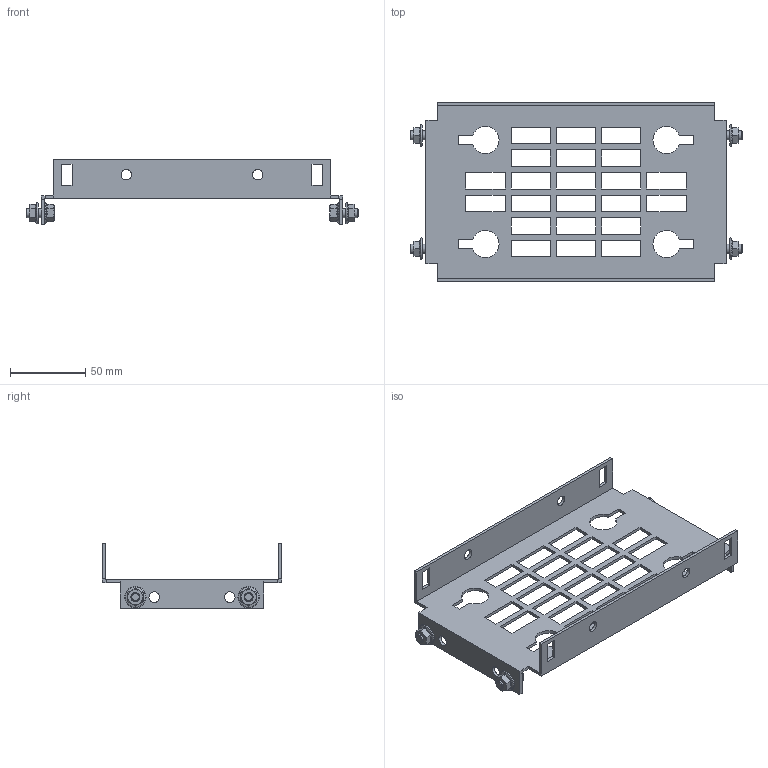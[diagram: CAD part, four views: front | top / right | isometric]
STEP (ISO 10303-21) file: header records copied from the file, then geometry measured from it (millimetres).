
FILE_DESCRIPTION(('Open CASCADE Model'),'2;1');
FILE_NAME('Open CASCADE Shape Model','2025-02-19T16:48:02',('Author'),( 'Open CASCADE'),'Open CASCADE STEP processor 7.8','Open CASCADE 7.8' ,'Unknown');
FILE_SCHEMA(('AUTOMOTIVE_DESIGN { 1 0 10303 214 1 1 1 1 }'));
Length unit declared in the file: millimetre
Products named in the file (4): Compound1; Solid1; Solid2; Solid3
Assembly tree (9 placements, depth 2):
  Compound1
    Solid1
    Solid2  x4
    Solid3  x4
Bounding box: 220 x 119 x 43 mm (x, y, z)
Volume: 60070.2 mm3; surface area: 65569.8 mm2
Topology: 9 solids, 9 shells, 378 faces, 962 edges, 606 vertices
Faces by surface type: plane 222, cone 68, bspline 48, cylinder 28, torus 12
Full cylindrical faces by diameter (mm): 5 x4, 6 x8, 7 x12
Entity records: 7696 total; most frequent: CARTESIAN_POINT 1855, ORIENTED_EDGE 1246, DIRECTION 1048, EDGE_CURVE 623, LINE 472, VECTOR 472, VERTEX_POINT 408, FACE_BOUND 309
